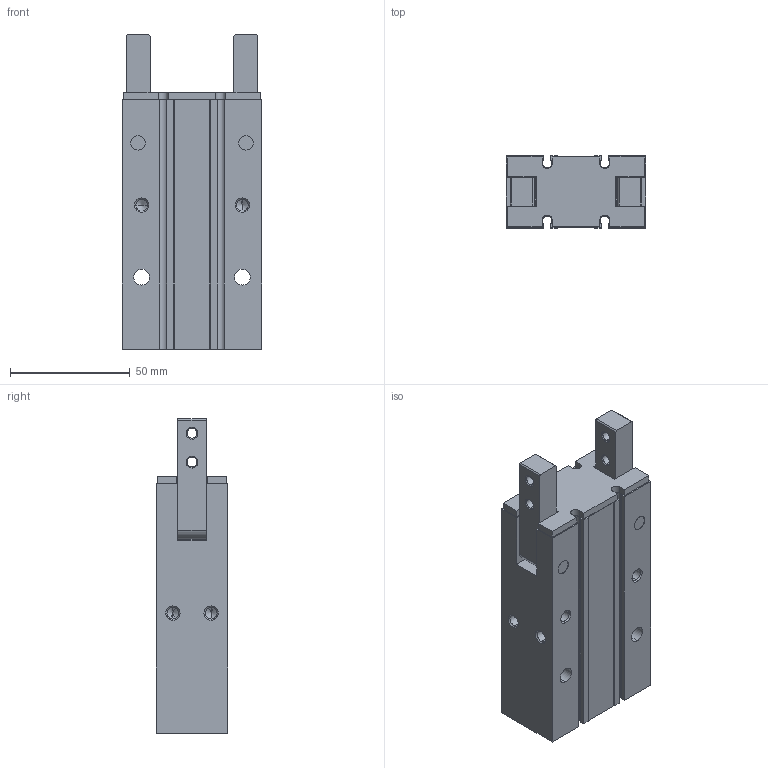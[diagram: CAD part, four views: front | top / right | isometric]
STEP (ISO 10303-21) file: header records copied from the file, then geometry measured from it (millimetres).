
FILE_DESCRIPTION (( 'STEP AP203' ), '1' );
FILE_NAME ('CHY2-25D.STEP', '2018-11-23T18:57:43', ( '' ), ( '' ), 'SwSTEP 2.0', 'SolidWorks 2018', '' );
FILE_SCHEMA (( 'CONFIG_CONTROL_DESIGN' ));
Length unit declared in the file: millimetre
Products named in the file (1): CHY2-25D
Bounding box: 58 x 30 x 131 mm (x, y, z)
Volume: 175011 mm3; surface area: 39598.8 mm2
Topology: 3 solids, 3 shells, 219 faces, 561 edges, 344 vertices
Faces by surface type: plane 84, cylinder 79, cone 56
Entity records: 6582 total; most frequent: DIRECTION 1175, CARTESIAN_POINT 1105, ORIENTED_EDGE 1082, EDGE_CURVE 541, AXIS2_PLACEMENT_3D 414, LINE 347, VECTOR 347, VERTEX_POINT 344
